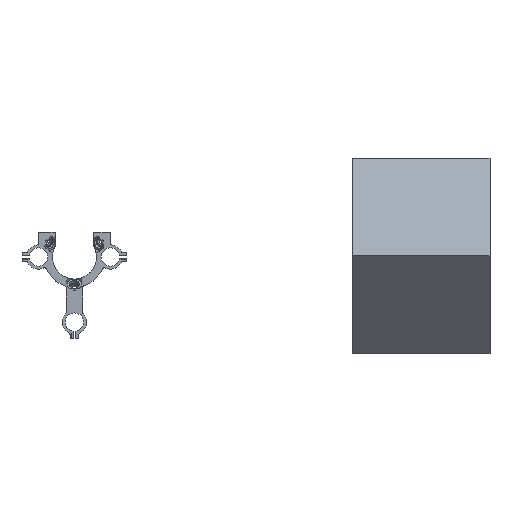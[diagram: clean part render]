
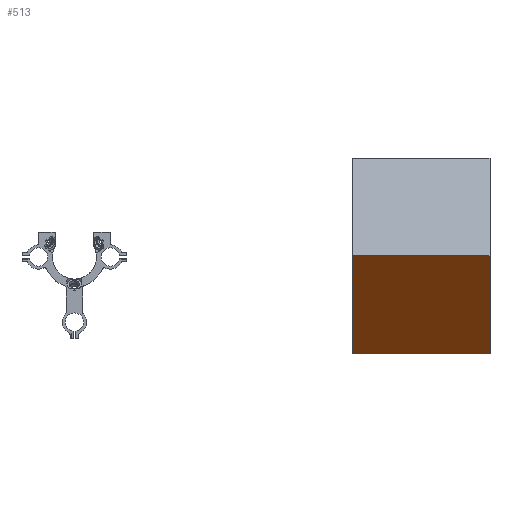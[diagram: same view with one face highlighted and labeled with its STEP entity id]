
A CAD part, top view. The second image highlights one B-rep face of the part: STEP entity #513.
In plain terms, the highlighted planar face has unit normal (0, -0.707, 0.707).
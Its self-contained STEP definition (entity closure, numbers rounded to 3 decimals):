
#147=PLANE('',#5277);
#513=ADVANCED_FACE('',(#699),#147,.T.);
#699=FACE_OUTER_BOUND('',#913,.F.);
#913=EDGE_LOOP('',(#1960,#1961,#1962,#1963));
#1960=ORIENTED_EDGE('',*,*,#4300,.F.);
#1961=ORIENTED_EDGE('',*,*,#4308,.F.);
#1962=ORIENTED_EDGE('',*,*,#4304,.T.);
#1963=ORIENTED_EDGE('',*,*,#4307,.T.);
#3459=LINE('',#8087,#3699);
#3463=LINE('',#8091,#3703);
#3466=LINE('',#8094,#3706);
#3467=LINE('',#8095,#3707);
#3699=VECTOR('',#6316,250.);
#3703=VECTOR('',#6320,250.);
#3706=VECTOR('',#6323,250.);
#3707=VECTOR('',#6324,250.);
#4300=EDGE_CURVE('',#4867,#4869,#3459,.T.);
#4304=EDGE_CURVE('',#4863,#4865,#3463,.T.);
#4307=EDGE_CURVE('',#4865,#4869,#3466,.T.);
#4308=EDGE_CURVE('',#4863,#4867,#3467,.T.);
#4863=VERTEX_POINT('',#8079);
#4865=VERTEX_POINT('',#8081);
#4867=VERTEX_POINT('',#8083);
#4869=VERTEX_POINT('',#8085);
#5277=AXIS2_PLACEMENT_3D('',#8101,#6333,#6334);
#6316=DIRECTION('',(0.,-0.707,-0.707));
#6320=DIRECTION('',(0.,-0.707,-0.707));
#6323=DIRECTION('',(-1.,0.,0.));
#6324=DIRECTION('',(-1.,0.,0.));
#6333=DIRECTION('',(0.,-0.707,0.707));
#6334=DIRECTION('',(0.,-0.707,-0.707));
#8079=CARTESIAN_POINT('',(1537.375,419.252,598.65));
#8081=CARTESIAN_POINT('',(1537.375,242.476,421.874));
#8083=CARTESIAN_POINT('',(1287.375,419.252,598.65));
#8085=CARTESIAN_POINT('',(1287.375,242.476,421.874));
#8087=CARTESIAN_POINT('',(1287.375,419.252,598.65));
#8091=CARTESIAN_POINT('',(1537.375,419.252,598.65));
#8094=CARTESIAN_POINT('',(1537.375,242.476,421.874));
#8095=CARTESIAN_POINT('',(1537.375,419.252,598.65));
#8101=CARTESIAN_POINT('',(1284.875,421.02,600.418));
